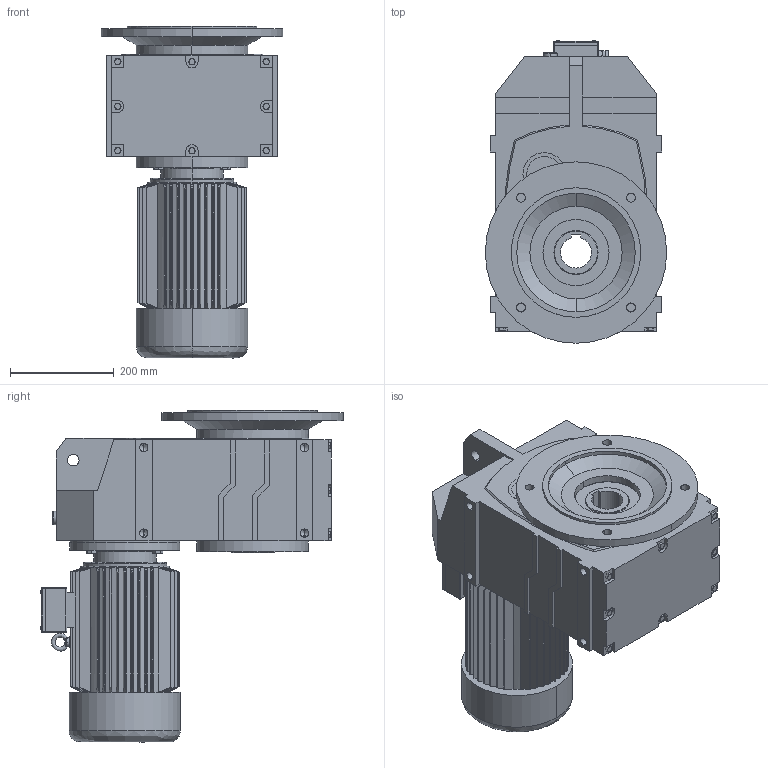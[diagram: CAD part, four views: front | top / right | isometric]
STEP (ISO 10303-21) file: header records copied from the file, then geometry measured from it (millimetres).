
FILE_DESCRIPTION (( 'STEP AP214' ), '1' );
FILE_NAME ('MFL87.step', '2020-06-27T08:09:06', ( '' ), ( '' ), 'SwSTEP 2.0', 'SolidWorks 2016', '' );
FILE_SCHEMA (( 'AUTOMOTIVE_DESIGN' ));
Length unit declared in the file: millimetre
Products named in the file (1): MFL87
Bounding box: 350 x 584.19 x 640.5 mm (x, y, z)
Volume: 43413336.8 mm3; surface area: 1610724 mm2
Topology: 3 solids, 3 shells, 1002 faces, 2545 edges, 1602 vertices
Faces by surface type: plane 531, cone 199, cylinder 167, bspline 105
Entity records: 43838 total; most frequent: CARTESIAN_POINT 9836, ORIENTED_EDGE 5042, DIRECTION 4276, EDGE_CURVE 2521, VERTEX_POINT 1602, AXIS2_PLACEMENT_3D 1464, VECTOR 1348, LINE 1348
